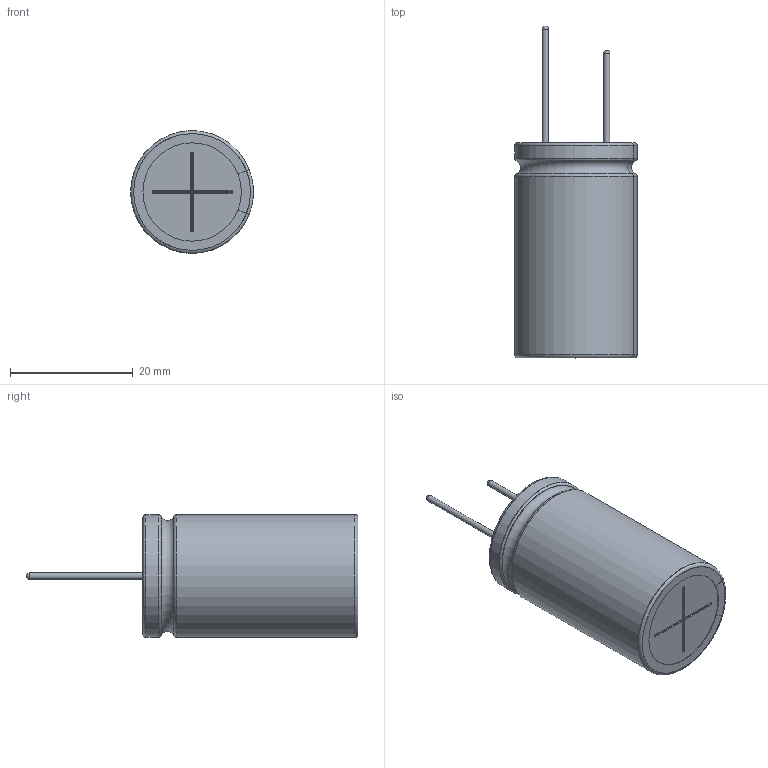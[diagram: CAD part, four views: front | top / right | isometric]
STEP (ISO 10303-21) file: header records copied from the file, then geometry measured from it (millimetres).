
FILE_DESCRIPTION(/* description */ (''),/* implementation_level */ '2;1');
FILE_NAME(/* name */ '20x35_Lead.stp',/* time_stamp */ '2017-09-06T16:03:07+09:00',/* author */ (''),/* organization */ (''),/* preprocessor_version */ 'ST-DEVELOPER v16',/* originating_system */ 'SIEMENS PLM Software NX 11.0',/* authorisation */ '');
FILE_SCHEMA (('AUTOMOTIVE_DESIGN { 1 0 10303 214 3 1 1 1 }'));
Length unit declared in the file: millimetre
Products named in the file (1): 20x35_Lead_0
Bounding box: 19.97 x 54 x 20 mm (x, y, z)
Volume: 10888.4 mm3; surface area: 7764.2 mm2
Topology: 3 solids, 3 shells, 100 faces, 252 edges, 160 vertices
Faces by surface type: cylinder 36, plane 28, torus 26, sphere 6, bspline 4
Full cylindrical faces by diameter (mm): 1 x2, 19.8 x2
Entity records: 3386 total; most frequent: CARTESIAN_POINT 605, DIRECTION 566, ORIENTED_EDGE 468, AXIS2_PLACEMENT_3D 235, EDGE_CURVE 234, VERTEX_POINT 154, CIRCLE 130, EDGE_LOOP 114
